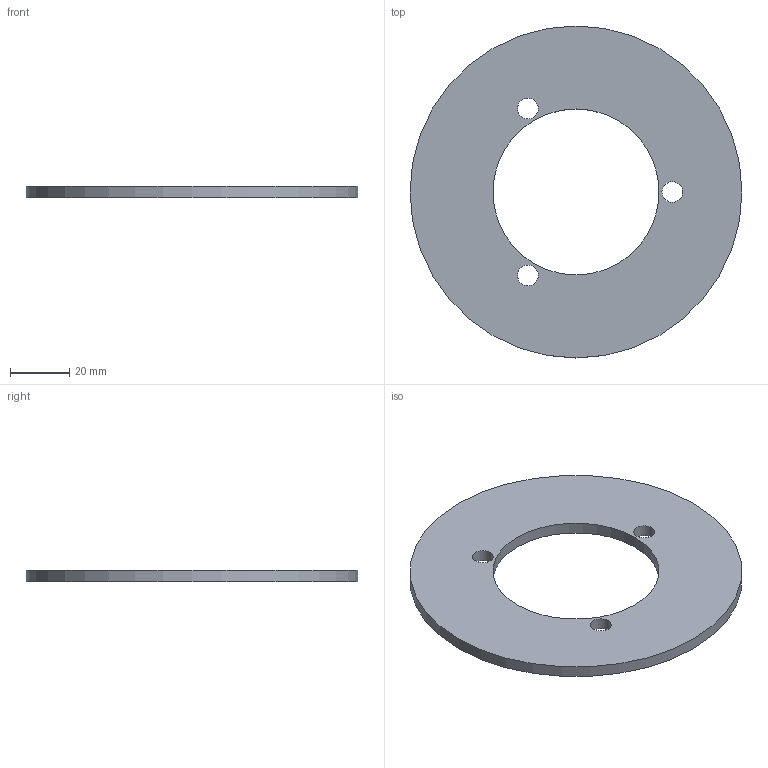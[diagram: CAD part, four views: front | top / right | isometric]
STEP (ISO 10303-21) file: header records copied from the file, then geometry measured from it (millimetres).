
FILE_DESCRIPTION(/* description */ (''),/* implementation_level */ '2;1');
FILE_NAME(/* name */ '103_clamping_ring.stp',/* time_stamp */ '2020-11-09T14:46:39+01:00',/* author */ (''),/* organization */ (''),/* preprocessor_version */ 'ST-DEVELOPER v16.7',/* originating_system */ 'SIEMENS PLM Software NX 12.0',/* authorisation */ '');
FILE_SCHEMA (('AUTOMOTIVE_DESIGN { 1 0 10303 214 3 1 1 1 }'));
Length unit declared in the file: millimetre
Products named in the file (1): bez430C4A55itfw
Bounding box: 112 x 112 x 4 mm (x, y, z)
Volume: 29094.3 mm3; surface area: 16922.2 mm2
Topology: 1 solids, 1 shells, 7 faces, 18 edges, 13 vertices
Faces by surface type: cylinder 5, plane 2
Full cylindrical faces by diameter (mm): 7 x3, 56 x1, 112 x1
Entity records: 222 total; most frequent: DIRECTION 36, CARTESIAN_POINT 28, FACE_BOUND 20, EDGE_LOOP 20, ORIENTED_EDGE 20, AXIS2_PLACEMENT_3D 18, VERTEX_POINT 10, EDGE_CURVE 10
